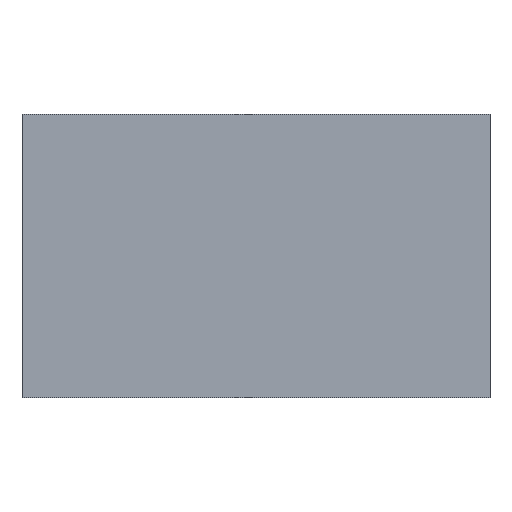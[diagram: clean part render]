
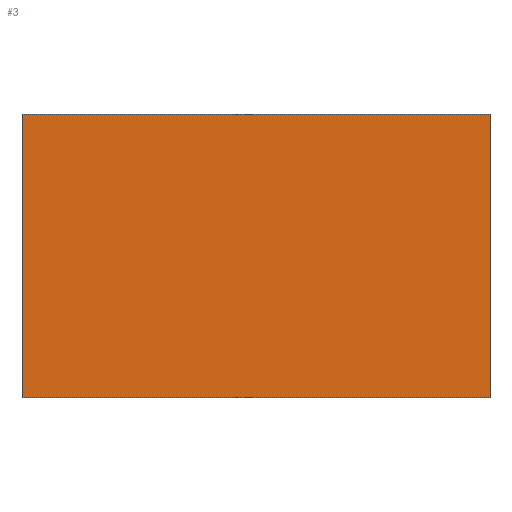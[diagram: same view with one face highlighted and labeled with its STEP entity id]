
A CAD part, top view. The second image highlights one B-rep face of the part: STEP entity #3.
In plain terms, the highlighted planar face has unit normal (0, 0, 1).
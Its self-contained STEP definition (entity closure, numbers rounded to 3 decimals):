
#3 = ADVANCED_FACE ( 'NONE', ( #154 ), #24, .F. ) ;
#24 = PLANE ( 'NONE',  #120 ) ;
#34 = DIRECTION ( 'NONE',  ( 0., 1., 0. ) ) ;
#36 = VERTEX_POINT ( 'NONE', #66 ) ;
#37 = VERTEX_POINT ( 'NONE', #96 ) ;
#41 = VERTEX_POINT ( 'NONE', #63 ) ;
#43 = VERTEX_POINT ( 'NONE', #85 ) ;
#53 = CARTESIAN_POINT ( 'NONE',  ( -354., 429., 6. ) ) ;
#61 = CARTESIAN_POINT ( 'NONE',  ( -354., 0., 6. ) ) ;
#63 = CARTESIAN_POINT ( 'NONE',  ( 354., 0., 6. ) ) ;
#64 = DIRECTION ( 'NONE',  ( 0., 1., 0. ) ) ;
#66 = CARTESIAN_POINT ( 'NONE',  ( -354., 0., 6. ) ) ;
#74 = DIRECTION ( 'NONE',  ( 0., -1., 0. ) ) ;
#75 = CARTESIAN_POINT ( 'NONE',  ( -354., 0., 6. ) ) ;
#85 = CARTESIAN_POINT ( 'NONE',  ( 354., 429., 6. ) ) ;
#92 = DIRECTION ( 'NONE',  ( 0., 0., -1. ) ) ;
#93 = CARTESIAN_POINT ( 'NONE',  ( 354., 0., 6. ) ) ;
#96 = CARTESIAN_POINT ( 'NONE',  ( -354., 429., 6. ) ) ;
#99 = DIRECTION ( 'NONE',  ( 1., 0., 0. ) ) ;
#102 = DIRECTION ( 'NONE',  ( -1., 0., 0. ) ) ;
#103 = CARTESIAN_POINT ( 'NONE',  ( -354., 429., 6. ) ) ;
#106 = EDGE_CURVE ( 'NONE', #37, #36, #179, .T. ) ;
#110 = EDGE_CURVE ( 'NONE', #36, #41, #167, .T. ) ;
#112 = EDGE_CURVE ( 'NONE', #43, #37, #180, .T. ) ;
#116 = EDGE_CURVE ( 'NONE', #41, #43, #143, .T. ) ;
#120 = AXIS2_PLACEMENT_3D ( 'NONE', #53, #92, #64 ) ;
#130 = ORIENTED_EDGE ( 'NONE', *, *, #112, .T. ) ;
#143 = LINE ( 'NONE', #93, #186 ) ;
#148 = EDGE_LOOP ( 'NONE', ( #155, #184, #192, #130 ) ) ;
#154 = FACE_OUTER_BOUND ( 'NONE', #148, .T. ) ;
#155 = ORIENTED_EDGE ( 'NONE', *, *, #106, .T. ) ;
#164 = VECTOR ( 'NONE', #74, 1000. ) ;
#167 = LINE ( 'NONE', #75, #185 ) ;
#179 = LINE ( 'NONE', #61, #164 ) ;
#180 = LINE ( 'NONE', #103, #181 ) ;
#181 = VECTOR ( 'NONE', #102, 1000. ) ;
#184 = ORIENTED_EDGE ( 'NONE', *, *, #110, .T. ) ;
#185 = VECTOR ( 'NONE', #99, 1000. ) ;
#186 = VECTOR ( 'NONE', #34, 1000. ) ;
#192 = ORIENTED_EDGE ( 'NONE', *, *, #116, .T. ) ;
